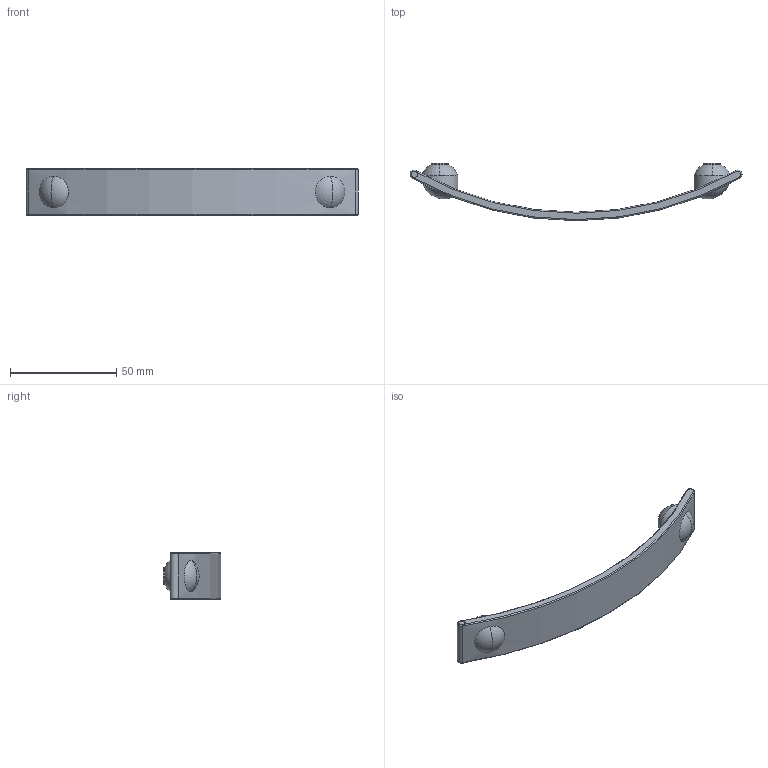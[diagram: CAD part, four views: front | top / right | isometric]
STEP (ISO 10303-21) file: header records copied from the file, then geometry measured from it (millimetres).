
FILE_DESCRIPTION( ( '' ), '1' );
FILE_NAME( 'D:/1.AUTOCAD EXPORT/Group 10/sheet_10_1/9118965.stp', '2013-10-18T05:17:47', ( '' ), ( '' ), ' ', ' ', ' ' );
FILE_SCHEMA( ( 'automotive_design' ) );
Length unit declared in the file: millimetre
Products named in the file (1): 1
Bounding box: 156.03 x 27 x 22.02 mm (x, y, z)
Volume: 17757.2 mm3; surface area: 9221.6 mm2
Topology: 1 solids, 1 shells, 50 faces, 134 edges, 88 vertices
Faces by surface type: cylinder 20, torus 20, plane 10
Entity records: 3540 total; most frequent: CARTESIAN_POINT 753, DIRECTION 292, STYLED_ITEM 269, PRESENTATION_STYLE_ASSIGNMENT 269, COLOUR_RGB 269, ORIENTED_EDGE 260, AXIS2_PLACEMENT_3D 135, EDGE_CURVE 130
